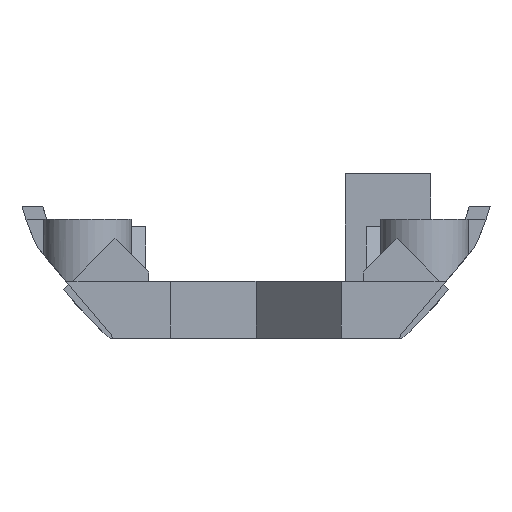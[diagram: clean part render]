
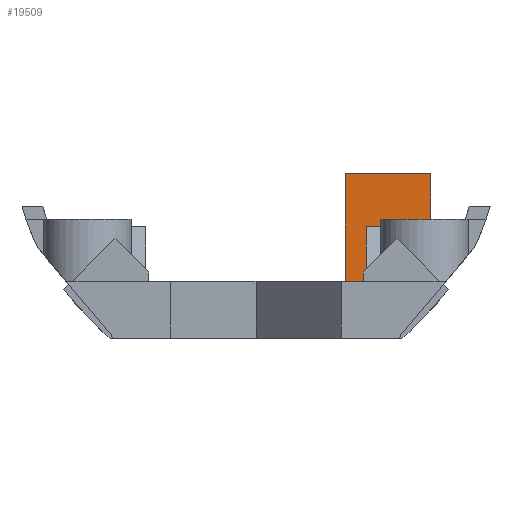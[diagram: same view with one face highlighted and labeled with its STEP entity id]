
A CAD part, left-side view. The second image highlights one B-rep face of the part: STEP entity #19509.
In plain terms, the highlighted planar face has unit normal (-1, 0, 0).
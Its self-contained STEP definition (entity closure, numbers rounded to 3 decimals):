
#32 = PLANE('',#33);
#33 = AXIS2_PLACEMENT_3D('',#34,#35,#36);
#34 = CARTESIAN_POINT('',(71.,-22.,-10.8));
#35 = DIRECTION('',(0.,0.,-1.));
#36 = DIRECTION('',(1.,0.,0.));
#1536 = PLANE('',#1537);
#1537 = AXIS2_PLACEMENT_3D('',#1538,#1539,#1540);
#1538 = CARTESIAN_POINT('',(66.,-59.724,44.8));
#1539 = DIRECTION('',(-0.,0.766,0.643));
#1540 = DIRECTION('',(0.,0.643,-0.766));
#1686 = VERTEX_POINT('',#1687);
#1687 = CARTESIAN_POINT('',(171.5,-6.9,-10.8));
#1701 = PLANE('',#1702);
#1702 = AXIS2_PLACEMENT_3D('',#1703,#1704,#1705);
#1703 = CARTESIAN_POINT('',(171.5,-6.9,-11.3));
#1704 = DIRECTION('',(-0.,1.,0.));
#1705 = DIRECTION('',(0.,0.,1.));
#1712 = EDGE_CURVE('',#1686,#1713,#1715,.T.);
#1713 = VERTEX_POINT('',#1714);
#1714 = CARTESIAN_POINT('',(171.5,-13.078,-10.8));
#1715 = SURFACE_CURVE('',#1716,(#1720,#1727),.PCURVE_S1.);
#1716 = LINE('',#1717,#1718);
#1717 = CARTESIAN_POINT('',(171.5,-17.75,-10.8));
#1718 = VECTOR('',#1719,1.);
#1719 = DIRECTION('',(0.,-1.,0.));
#1720 = PCURVE('',#32,#1721);
#1721 = DEFINITIONAL_REPRESENTATION('',(#1722),#1726);
#1722 = LINE('',#1723,#1724);
#1723 = CARTESIAN_POINT('',(100.5,-4.25));
#1724 = VECTOR('',#1725,1.);
#1725 = DIRECTION('',(0.,1.));
#1726 = ( GEOMETRIC_REPRESENTATION_CONTEXT(2) 
PARAMETRIC_REPRESENTATION_CONTEXT() REPRESENTATION_CONTEXT('2D SPACE',''
  ) );
#1727 = PCURVE('',#1728,#1733);
#1728 = PLANE('',#1729);
#1729 = AXIS2_PLACEMENT_3D('',#1730,#1731,#1732);
#1730 = CARTESIAN_POINT('',(171.5,-13.5,-11.3));
#1731 = DIRECTION('',(1.,0.,-0.));
#1732 = DIRECTION('',(0.,0.,1.));
#1733 = DEFINITIONAL_REPRESENTATION('',(#1734),#1737);
#1734 = B_SPLINE_CURVE_WITH_KNOTS('',1,(#1735,#1736),.UNSPECIFIED.,.F.,
  .F.,(2,2),(-10.85,-4.25),.PIECEWISE_BEZIER_KNOTS.);
#1735 = CARTESIAN_POINT('',(0.5,-6.6));
#1736 = CARTESIAN_POINT('',(0.5,0.));
#1737 = ( GEOMETRIC_REPRESENTATION_CONTEXT(2) 
PARAMETRIC_REPRESENTATION_CONTEXT() REPRESENTATION_CONTEXT('2D SPACE',''
  ) );
#19509 = ADVANCED_FACE('',(#19510),#1728,.F.);
#19510 = FACE_BOUND('',#19511,.F.);
#19511 = EDGE_LOOP('',(#19512,#19542,#19561,#19562,#19585));
#19512 = ORIENTED_EDGE('',*,*,#19513,.F.);
#19513 = EDGE_CURVE('',#19514,#19516,#19518,.T.);
#19514 = VERTEX_POINT('',#19515);
#19515 = CARTESIAN_POINT('',(171.5,-13.5,-10.297));
#19516 = VERTEX_POINT('',#19517);
#19517 = CARTESIAN_POINT('',(171.5,-13.5,-2.5));
#19518 = SURFACE_CURVE('',#19519,(#19523,#19530),.PCURVE_S1.);
#19519 = LINE('',#19520,#19521);
#19520 = CARTESIAN_POINT('',(171.5,-13.5,-11.3));
#19521 = VECTOR('',#19522,1.);
#19522 = DIRECTION('',(0.,0.,1.));
#19523 = PCURVE('',#1728,#19524);
#19524 = DEFINITIONAL_REPRESENTATION('',(#19525),#19529);
#19525 = LINE('',#19526,#19527);
#19526 = CARTESIAN_POINT('',(0.,0.));
#19527 = VECTOR('',#19528,1.);
#19528 = DIRECTION('',(1.,0.));
#19529 = ( GEOMETRIC_REPRESENTATION_CONTEXT(2) 
PARAMETRIC_REPRESENTATION_CONTEXT() REPRESENTATION_CONTEXT('2D SPACE',''
  ) );
#19530 = PCURVE('',#19531,#19536);
#19531 = PLANE('',#19532);
#19532 = AXIS2_PLACEMENT_3D('',#19533,#19534,#19535);
#19533 = CARTESIAN_POINT('',(171.5,-13.5,-11.3));
#19534 = DIRECTION('',(-0.,1.,0.));
#19535 = DIRECTION('',(0.,0.,1.));
#19536 = DEFINITIONAL_REPRESENTATION('',(#19537),#19541);
#19537 = LINE('',#19538,#19539);
#19538 = CARTESIAN_POINT('',(0.,0.));
#19539 = VECTOR('',#19540,1.);
#19540 = DIRECTION('',(1.,0.));
#19541 = ( GEOMETRIC_REPRESENTATION_CONTEXT(2) 
PARAMETRIC_REPRESENTATION_CONTEXT() REPRESENTATION_CONTEXT('2D SPACE',''
  ) );
#19542 = ORIENTED_EDGE('',*,*,#19543,.T.);
#19543 = EDGE_CURVE('',#19514,#1713,#19544,.T.);
#19544 = SURFACE_CURVE('',#19545,(#19549,#19555),.PCURVE_S1.);
#19545 = LINE('',#19546,#19547);
#19546 = CARTESIAN_POINT('',(171.5,-36.365,16.957));
#19547 = VECTOR('',#19548,1.);
#19548 = DIRECTION('',(-0.,0.643,-0.766));
#19549 = PCURVE('',#1728,#19550);
#19550 = DEFINITIONAL_REPRESENTATION('',(#19551),#19554);
#19551 = B_SPLINE_CURVE_WITH_KNOTS('',1,(#19552,#19553),.UNSPECIFIED.,
  .F.,.F.,(2,2),(35.575,36.232),
  .PIECEWISE_BEZIER_KNOTS.);
#19552 = CARTESIAN_POINT('',(1.003,0.));
#19553 = CARTESIAN_POINT('',(0.5,-0.422));
#19554 = ( GEOMETRIC_REPRESENTATION_CONTEXT(2) 
PARAMETRIC_REPRESENTATION_CONTEXT() REPRESENTATION_CONTEXT('2D SPACE',''
  ) );
#19555 = PCURVE('',#1536,#19556);
#19556 = DEFINITIONAL_REPRESENTATION('',(#19557),#19560);
#19557 = B_SPLINE_CURVE_WITH_KNOTS('',1,(#19558,#19559),.UNSPECIFIED.,
  .F.,.F.,(2,2),(35.575,36.232),
  .PIECEWISE_BEZIER_KNOTS.);
#19558 = CARTESIAN_POINT('',(71.919,-105.5));
#19559 = CARTESIAN_POINT('',(72.576,-105.5));
#19560 = ( GEOMETRIC_REPRESENTATION_CONTEXT(2) 
PARAMETRIC_REPRESENTATION_CONTEXT() REPRESENTATION_CONTEXT('2D SPACE',''
  ) );
#19561 = ORIENTED_EDGE('',*,*,#1712,.F.);
#19562 = ORIENTED_EDGE('',*,*,#19563,.T.);
#19563 = EDGE_CURVE('',#1686,#19564,#19566,.T.);
#19564 = VERTEX_POINT('',#19565);
#19565 = CARTESIAN_POINT('',(171.5,-6.9,-2.5));
#19566 = SURFACE_CURVE('',#19567,(#19571,#19578),.PCURVE_S1.);
#19567 = LINE('',#19568,#19569);
#19568 = CARTESIAN_POINT('',(171.5,-6.9,-11.3));
#19569 = VECTOR('',#19570,1.);
#19570 = DIRECTION('',(0.,0.,1.));
#19571 = PCURVE('',#1728,#19572);
#19572 = DEFINITIONAL_REPRESENTATION('',(#19573),#19577);
#19573 = LINE('',#19574,#19575);
#19574 = CARTESIAN_POINT('',(0.,-6.6));
#19575 = VECTOR('',#19576,1.);
#19576 = DIRECTION('',(1.,0.));
#19577 = ( GEOMETRIC_REPRESENTATION_CONTEXT(2) 
PARAMETRIC_REPRESENTATION_CONTEXT() REPRESENTATION_CONTEXT('2D SPACE',''
  ) );
#19578 = PCURVE('',#1701,#19579);
#19579 = DEFINITIONAL_REPRESENTATION('',(#19580),#19584);
#19580 = LINE('',#19581,#19582);
#19581 = CARTESIAN_POINT('',(0.,0.));
#19582 = VECTOR('',#19583,1.);
#19583 = DIRECTION('',(1.,0.));
#19584 = ( GEOMETRIC_REPRESENTATION_CONTEXT(2) 
PARAMETRIC_REPRESENTATION_CONTEXT() REPRESENTATION_CONTEXT('2D SPACE',''
  ) );
#19585 = ORIENTED_EDGE('',*,*,#19586,.F.);
#19586 = EDGE_CURVE('',#19516,#19564,#19587,.T.);
#19587 = SURFACE_CURVE('',#19588,(#19592,#19599),.PCURVE_S1.);
#19588 = LINE('',#19589,#19590);
#19589 = CARTESIAN_POINT('',(171.5,-13.5,-2.5));
#19590 = VECTOR('',#19591,1.);
#19591 = DIRECTION('',(-0.,1.,0.));
#19592 = PCURVE('',#1728,#19593);
#19593 = DEFINITIONAL_REPRESENTATION('',(#19594),#19598);
#19594 = LINE('',#19595,#19596);
#19595 = CARTESIAN_POINT('',(8.8,0.));
#19596 = VECTOR('',#19597,1.);
#19597 = DIRECTION('',(0.,-1.));
#19598 = ( GEOMETRIC_REPRESENTATION_CONTEXT(2) 
PARAMETRIC_REPRESENTATION_CONTEXT() REPRESENTATION_CONTEXT('2D SPACE',''
  ) );
#19599 = PCURVE('',#19600,#19605);
#19600 = PLANE('',#19601);
#19601 = AXIS2_PLACEMENT_3D('',#19602,#19603,#19604);
#19602 = CARTESIAN_POINT('',(171.5,-13.5,-2.5));
#19603 = DIRECTION('',(0.,0.,1.));
#19604 = DIRECTION('',(1.,0.,-0.));
#19605 = DEFINITIONAL_REPRESENTATION('',(#19606),#19610);
#19606 = LINE('',#19607,#19608);
#19607 = CARTESIAN_POINT('',(0.,0.));
#19608 = VECTOR('',#19609,1.);
#19609 = DIRECTION('',(0.,1.));
#19610 = ( GEOMETRIC_REPRESENTATION_CONTEXT(2) 
PARAMETRIC_REPRESENTATION_CONTEXT() REPRESENTATION_CONTEXT('2D SPACE',''
  ) );
